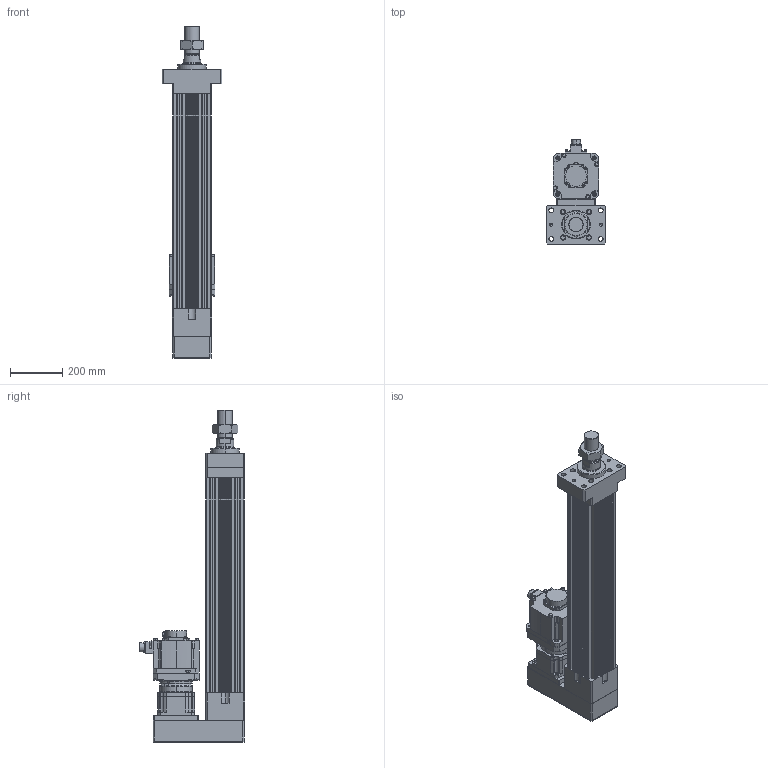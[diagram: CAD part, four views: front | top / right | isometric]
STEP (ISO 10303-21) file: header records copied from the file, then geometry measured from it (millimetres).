
FILE_DESCRIPTION (( 'STEP AP203' ), '1' );
FILE_NAME ('HES150NS(HS)-P550-W035G00-M-FMA.STEP', '2023-01-31T10:38:26', ( 'tms' ), ( '' ), 'SwSTEP 2.0', 'SolidWorks 2013', '' );
FILE_SCHEMA (( 'CONFIG_CONTROL_DESIGN' ));
Length unit declared in the file: millimetre
Products named in the file (9): HG-SR352; M56X2.0P; HES150-P550-G142-FMA; P1301500001; HES150NS(HS)-P550-W035G00-M-FMA; P0403500801; HES150 ROD M ST550; AB142-003[HG-SR352]; AB1421
Assembly tree (8 placements, depth 3):
  HES150NS(HS)-P550-W035G00-M-FMA
    HES150-P550-G142-FMA
    HES150 ROD M ST550
    M56X2.0P
    AB142-003[HG-SR352]
      AB1421
      P1301500001
      P0403500801
    HG-SR352
Bounding box: 230 x 403.85 x 1276 mm (x, y, z)
Volume: 21174553.9 mm3; surface area: 2110343 mm2
Topology: 4 solids, 18 shells, 1426 faces, 3722 edges, 2416 vertices
Faces by surface type: cylinder 669, plane 531, cone 144, bspline 76, torus 6
Entity records: 52806 total; most frequent: CARTESIAN_POINT 16363, DIRECTION 7620, ORIENTED_EDGE 7346, EDGE_CURVE 3695, AXIS2_PLACEMENT_3D 2898, VERTEX_POINT 2416, LINE 1824, VECTOR 1824
